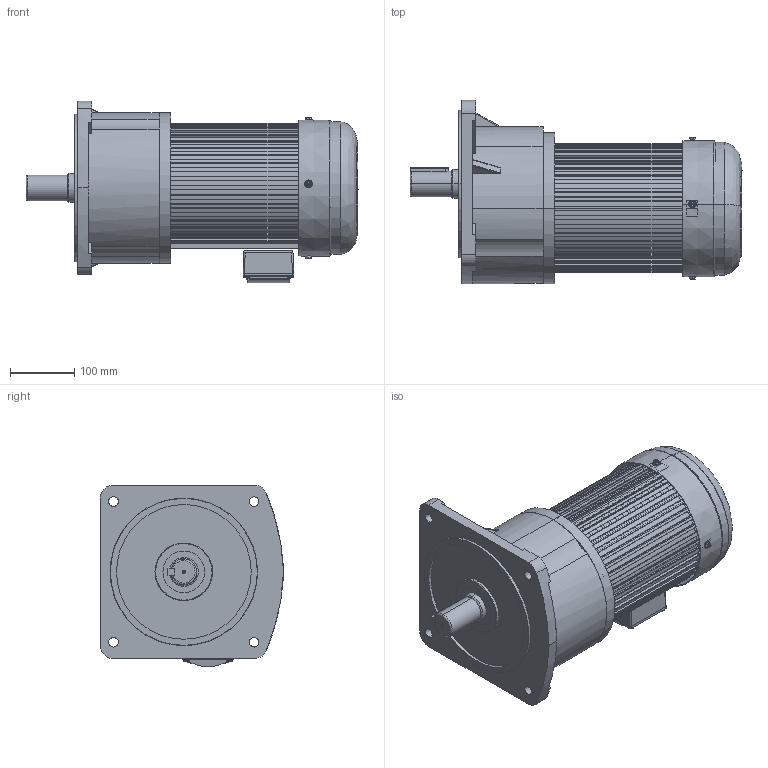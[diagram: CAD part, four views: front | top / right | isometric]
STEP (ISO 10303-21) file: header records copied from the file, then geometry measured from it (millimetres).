
FILE_DESCRIPTION (( 'STEP AP214' ), '1' );
FILE_NAME ('CV40-3700W去字改颜色.STEP', '2024-01-11T06:13:31', ( '微软用户' ), ( '微软中国' ), 'SwSTEP 2.0', 'SolidWorks 2014', '' );
FILE_SCHEMA (( 'AUTOMOTIVE_DESIGN' ));
Length unit declared in the file: millimetre
Products named in the file (9): 180綴傷裔; 3700W萇儂俋褲; CV40; CV40-3700W去字改颜色; 諉盄碟蹟佪; 奻裔(臏ㄘ; 菁碟ㄗ臏ㄘ; 瑞珔欶蹟佪; 210瑞珔欶
Assembly tree (14 placements, depth 2):
  CV40-3700W去字改颜色
    CV40
    3700W萇儂俋褲
    180綴傷裔
    210瑞珔欶
    瑞珔欶蹟佪  x4
    菁碟ㄗ臏ㄘ
    奻裔(臏ㄘ
    諉盄碟蹟佪  x4
Bounding box: 517.47 x 285.46 x 282.81 mm (x, y, z)
Volume: 12028360.8 mm3; surface area: 1613810.3 mm2
Topology: 26 solids, 652 shells, 2360 faces, 8334 edges, 6743 vertices
Faces by surface type: plane 1222, cylinder 902, bspline 144, cone 92
Entity records: 107779 total; most frequent: CARTESIAN_POINT 46753, ORIENTED_EDGE 11074, DIRECTION 10825, EDGE_CURVE 7396, VERTEX_POINT 6128, LINE 4309, VECTOR 4309, AXIS2_PLACEMENT_3D 3258
